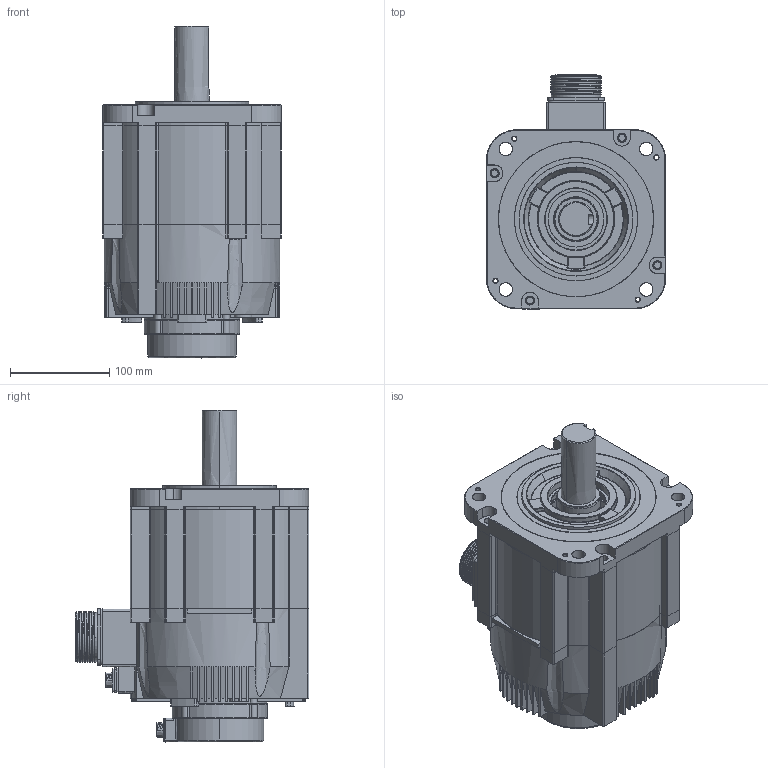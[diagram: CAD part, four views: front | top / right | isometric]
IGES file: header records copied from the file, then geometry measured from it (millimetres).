
Start section: SolidWorks IGES file using analytic representation for surfaces
Global section: file name: C:\Users\11755\Desktop\騰禾380V\外型圖\SMP系列_馬達外型圖(客戶版)\3D-IGES\SMP-H440B.IGS; native system: SolidWorks 2016; preprocessor: SolidWorks 2016; author: 11755; date: 210504.135445; units: millimetre
Bounding box: 180 x 235.3 x 334 mm (x, y, z)
Surface area: 342731.8 mm2 (no closed solid volume)
Topology: 0 solids, 0 shells, 1019 faces, 13331 edges, 13318 vertices
Faces by surface type: revolution 542, bspline 477
